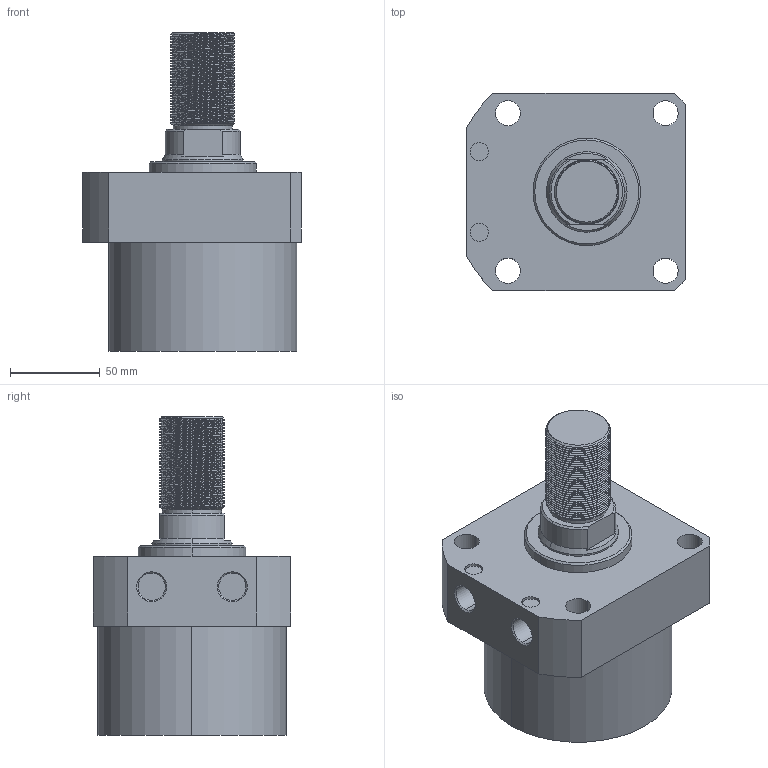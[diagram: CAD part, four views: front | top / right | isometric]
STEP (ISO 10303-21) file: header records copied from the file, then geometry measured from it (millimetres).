
FILE_DESCRIPTION (( 'STEP AP214' ), '1' );
FILE_NAME ('CLLR-105CT-040.STEP', '2020-01-09T07:46:01', ( 'Windows' ), ( 'Microsoft' ), 'SwSTEP 2.0', 'SolidWorks 2015', '' );
FILE_SCHEMA (( 'AUTOMOTIVE_DESIGN' ));
Length unit declared in the file: millimetre
Products named in the file (1): CLLR-105CT-040
Bounding box: 122 x 110 x 178 mm (x, y, z)
Volume: 1100385.4 mm3; surface area: 84846.7 mm2
Topology: 1 solids, 1 shells, 136 faces, 365 edges, 239 vertices
Faces by surface type: cylinder 97, plane 20, cone 17, bspline 2
Entity records: 7968 total; most frequent: CARTESIAN_POINT 4886, ORIENTED_EDGE 730, DIRECTION 559, EDGE_CURVE 365, VERTEX_POINT 239, AXIS2_PLACEMENT_3D 212, EDGE_LOOP 152, ADVANCED_FACE 136
